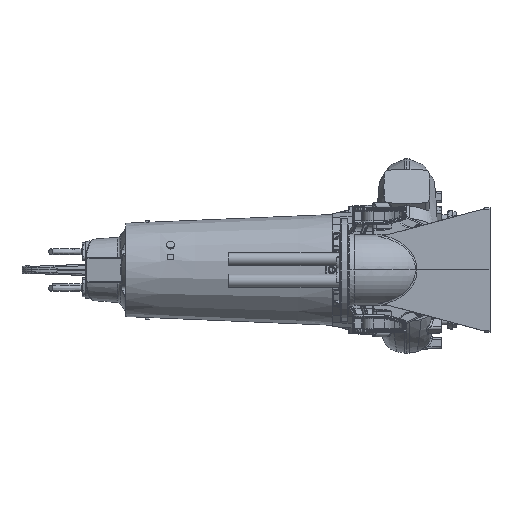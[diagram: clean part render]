
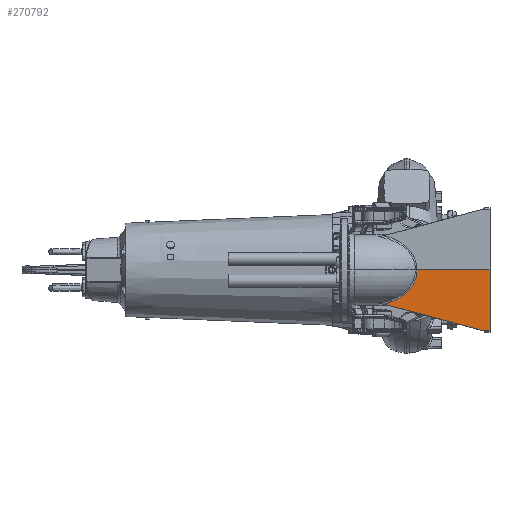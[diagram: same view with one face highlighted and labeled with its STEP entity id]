
A CAD part, left-side view. The second image highlights one B-rep face of the part: STEP entity #270792.
In plain terms, the highlighted planar face has unit normal (-1, 0, -0.018).
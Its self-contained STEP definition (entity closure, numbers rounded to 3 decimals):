
#3642 = CARTESIAN_POINT ( 'NONE',  ( -564.207, 210.704, -48.974 ) ) ;
#4672 = CARTESIAN_POINT ( 'NONE',  ( -563.428, 237.962, -93.628 ) ) ;
#5678 = CARTESIAN_POINT ( 'NONE',  ( -562.554, 308.802, -143.659 ) ) ;
#22966 = FACE_OUTER_BOUND ( 'NONE', #231793, .T. ) ;
#26110 = ORIENTED_EDGE ( 'NONE', *, *, #312165, .F. ) ;
#27839 = CARTESIAN_POINT ( 'NONE',  ( -564.126, 212.567, -53.639 ) ) ;
#28894 = CARTESIAN_POINT ( 'NONE',  ( -563.269, 246.53, -102.731 ) ) ;
#29541 = AXIS2_PLACEMENT_3D ( 'NONE', #203999, #59508, #228221 ) ;
#29899 = CARTESIAN_POINT ( 'NONE',  ( -562.403, 332.199, -152.36 ) ) ;
#39165 = DIRECTION ( 'NONE',  ( -0.017, 0., 1. ) ) ;
#49739 = CARTESIAN_POINT ( 'NONE',  ( -561.321, 150.673, -214.322 ) ) ;
#50301 = B_SPLINE_CURVE_WITH_KNOTS ( 'NONE', 3,
 ( #117660, #147089, #75372, #244166, #99569, #268512, #123927, #292788, #148133, #3642, #172396, #27839, #196672, #52138, #220933, #76369, #245222, #100605, #269557, #124967, #293846, #149133, #4672, #173428, #28894, #197700, #53163, #221987, #77369, #246263, #101647, #270576, #126008, #294863, #150160, #5678, #174451, #29899, #198745, #54176, #223013, #78409 ),
 .UNSPECIFIED., .F., .F.,
 ( 4, 2, 2, 2, 2, 2, 2, 2, 2, 2, 2, 2, 2, 2, 2, 2, 2, 2, 2, 2, 4 ),
 ( 0., 0.015, 0.03, 0.045, 0.049, 0.052, 0.06, 0.075, 0.09, 0.093, 0.097, 0.105, 0.119, 0.134, 0.138, 0.142, 0.149, 0.179, 0.209, 0.224, 0.239 ),
 .UNSPECIFIED. ) ;
#52138 = CARTESIAN_POINT ( 'NONE',  ( -563.967, 216.741, -62.723 ) ) ;
#53163 = CARTESIAN_POINT ( 'NONE',  ( -563.094, 257.691, -112.742 ) ) ;
#54176 = CARTESIAN_POINT ( 'NONE',  ( -562.326, 346.619, -156.717 ) ) ;
#59508 = DIRECTION ( 'NONE',  ( -1., 0., -0.017 ) ) ;
#59581 = VECTOR ( 'NONE', #78253, 1000. ) ;
#61191 = LINE ( 'NONE', #304134, #181931 ) ;
#61282 = VERTEX_POINT ( 'NONE', #262365 ) ;
#73995 = DIRECTION ( 'NONE',  ( -0.005, 0.966, 0.259 ) ) ;
#75372 = CARTESIAN_POINT ( 'NONE',  ( -564.886, 202.103, -10.062 ) ) ;
#76369 = CARTESIAN_POINT ( 'NONE',  ( -563.741, 224.239, -75.669 ) ) ;
#77369 = CARTESIAN_POINT ( 'NONE',  ( -563.013, 263.638, -117.366 ) ) ;
#78253 = DIRECTION ( 'NONE',  ( 0., -1., 0. ) ) ;
#78409 = CARTESIAN_POINT ( 'NONE',  ( -562.283, 356.343, -159.213 ) ) ;
#78837 = CARTESIAN_POINT ( 'NONE',  ( -560.172, -138.101, -280.175 ) ) ;
#82673 = PLANE ( 'NONE',  #29541 ) ;
#85532 = EDGE_CURVE ( 'NONE', #263175, #261149, #227937, .T. ) ;
#93647 = ORIENTED_EDGE ( 'NONE', *, *, #119832, .T. ) ;
#99569 = CARTESIAN_POINT ( 'NONE',  ( -564.627, 203.899, -24.895 ) ) ;
#100605 = CARTESIAN_POINT ( 'NONE',  ( -563.581, 230.803, -84.861 ) ) ;
#101647 = CARTESIAN_POINT ( 'NONE',  ( -562.974, 266.669, -119.62 ) ) ;
#115918 = VECTOR ( 'NONE', #73995, 1000. ) ;
#117660 = CARTESIAN_POINT ( 'NONE',  ( -565.062, 201.954, 0. ) ) ;
#119832 = EDGE_CURVE ( 'NONE', #169569, #61282, #50301, .T. ) ;
#123927 = CARTESIAN_POINT ( 'NONE',  ( -564.373, 207.372, -39.451 ) ) ;
#124967 = CARTESIAN_POINT ( 'NONE',  ( -563.529, 233.13, -87.845 ) ) ;
#126008 = CARTESIAN_POINT ( 'NONE',  ( -562.911, 271.801, -123.248 ) ) ;
#127111 = LINE ( 'NONE', #247125, #59581 ) ;
#145989 = CARTESIAN_POINT ( 'NONE',  ( -565.062, 201.954, 0. ) ) ;
#147089 = CARTESIAN_POINT ( 'NONE',  ( -564.974, 201.881, -5.055 ) ) ;
#148133 = CARTESIAN_POINT ( 'NONE',  ( -564.248, 209.826, -46.612 ) ) ;
#149133 = CARTESIAN_POINT ( 'NONE',  ( -563.461, 236.32, -91.733 ) ) ;
#150160 = CARTESIAN_POINT ( 'NONE',  ( -562.705, 290.908, -135.029 ) ) ;
#158047 = ORIENTED_EDGE ( 'NONE', *, *, #276382, .T. ) ;
#165848 = CARTESIAN_POINT ( 'NONE',  ( -565.062, -138.101, 0. ) ) ;
#168401 = DIRECTION ( 'NONE',  ( 0., -1., 0. ) ) ;
#169569 = VERTEX_POINT ( 'NONE', #145989 ) ;
#172396 = CARTESIAN_POINT ( 'NONE',  ( -564.187, 211.159, -50.146 ) ) ;
#173375 = CARTESIAN_POINT ( 'NONE',  ( -560.172, -95.092, -280.175 ) ) ;
#173428 = CARTESIAN_POINT ( 'NONE',  ( -563.331, 243.008, -99.189 ) ) ;
#174451 = CARTESIAN_POINT ( 'NONE',  ( -562.489, 318.021, -147.422 ) ) ;
#181931 = VECTOR ( 'NONE', #39165, 1000. ) ;
#191484 = EDGE_CURVE ( 'NONE', #169569, #225873, #127111, .T. ) ;
#196672 = CARTESIAN_POINT ( 'NONE',  ( -564.086, 213.567, -55.934 ) ) ;
#197700 = CARTESIAN_POINT ( 'NONE',  ( -563.151, 253.872, -109.508 ) ) ;
#198745 = CARTESIAN_POINT ( 'NONE',  ( -562.376, 336.988, -153.89 ) ) ;
#203999 = CARTESIAN_POINT ( 'NONE',  ( -560., -125.101, -290. ) ) ;
#210795 = ORIENTED_EDGE ( 'NONE', *, *, #191484, .F. ) ;
#220933 = CARTESIAN_POINT ( 'NONE',  ( -563.89, 219.092, -67.12 ) ) ;
#221987 = CARTESIAN_POINT ( 'NONE',  ( -563.027, 262.639, -116.603 ) ) ;
#223013 = CARTESIAN_POINT ( 'NONE',  ( -562.304, 351.467, -158.016 ) ) ;
#225873 = VERTEX_POINT ( 'NONE', #165848 ) ;
#227937 = LINE ( 'NONE', #313089, #284711 ) ;
#228221 = DIRECTION ( 'NONE',  ( -0.017, 0., 1. ) ) ;
#231793 = EDGE_LOOP ( 'NONE', ( #26110, #267831, #158047, #210795, #93647 ) ) ;
#244166 = CARTESIAN_POINT ( 'NONE',  ( -564.713, 203.112, -19.981 ) ) ;
#245222 = CARTESIAN_POINT ( 'NONE',  ( -563.669, 227.036, -79.821 ) ) ;
#246263 = CARTESIAN_POINT ( 'NONE',  ( -562.987, 265.652, -118.874 ) ) ;
#247125 = CARTESIAN_POINT ( 'NONE',  ( -565.062, -125.101, 0. ) ) ;
#261149 = VERTEX_POINT ( 'NONE', #78837 ) ;
#262365 = CARTESIAN_POINT ( 'NONE',  ( -562.283, 356.343, -159.213 ) ) ;
#263175 = VERTEX_POINT ( 'NONE', #173375 ) ;
#267831 = ORIENTED_EDGE ( 'NONE', *, *, #85532, .T. ) ;
#268512 = CARTESIAN_POINT ( 'NONE',  ( -564.458, 206.029, -34.63 ) ) ;
#269557 = CARTESIAN_POINT ( 'NONE',  ( -563.563, 231.571, -85.863 ) ) ;
#270576 = CARTESIAN_POINT ( 'NONE',  ( -562.936, 269.735, -121.824 ) ) ;
#270792 = ADVANCED_FACE ( 'NONE', ( #22966 ), #82673, .T. ) ;
#276382 = EDGE_CURVE ( 'NONE', #261149, #225873, #61191, .T. ) ;
#284711 = VECTOR ( 'NONE', #168401, 1000. ) ;
#292788 = CARTESIAN_POINT ( 'NONE',  ( -564.269, 209.402, -45.42 ) ) ;
#293846 = CARTESIAN_POINT ( 'NONE',  ( -563.512, 233.919, -88.825 ) ) ;
#294863 = CARTESIAN_POINT ( 'NONE',  ( -562.79, 282.233, -130.163 ) ) ;
#304134 = CARTESIAN_POINT ( 'NONE',  ( -565.062, -138.101, 0. ) ) ;
#308580 = LINE ( 'NONE', #49739, #115918 ) ;
#312165 = EDGE_CURVE ( 'NONE', #263175, #61282, #308580, .T. ) ;
#313089 = CARTESIAN_POINT ( 'NONE',  ( -560.172, -125.101, -280.175 ) ) ;
